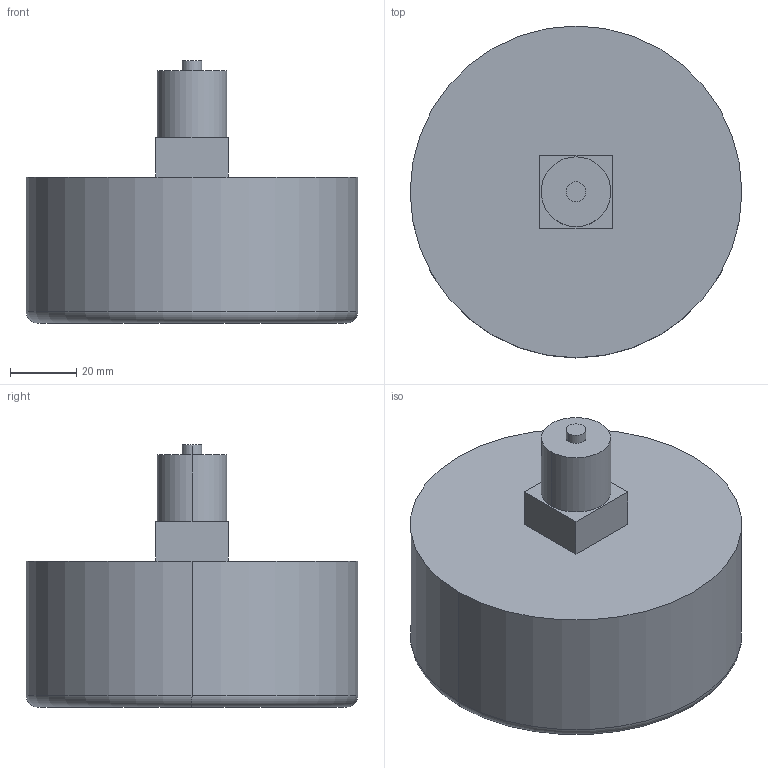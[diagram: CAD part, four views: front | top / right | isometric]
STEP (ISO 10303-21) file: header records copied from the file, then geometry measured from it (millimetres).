
FILE_DESCRIPTION (( 'STEP AP214' ), '1' );
FILE_NAME ('Manometr_puszkowy_x_0_3D_AFRISO.STEP', '2022-12-14T11:40:57', ( '' ), ( '' ), 'SwSTEP 2.0', 'SolidWorks 2022', '' );
FILE_SCHEMA (( 'AUTOMOTIVE_DESIGN' ));
Length unit declared in the file: millimetre
Products named in the file (1): Manometr_puszkowy_x_0_3D_AFRISO
Bounding box: 100 x 100 x 79 mm (x, y, z)
Volume: 357582.3 mm3; surface area: 31485.6 mm2
Topology: 1 solids, 1 shells, 17 faces, 34 edges, 22 vertices
Faces by surface type: plane 9, cylinder 6, torus 2
Entity records: 482 total; most frequent: DIRECTION 86, CARTESIAN_POINT 74, ORIENTED_EDGE 68, AXIS2_PLACEMENT_3D 34, EDGE_CURVE 34, VERTEX_POINT 22, EDGE_LOOP 20, VECTOR 18
